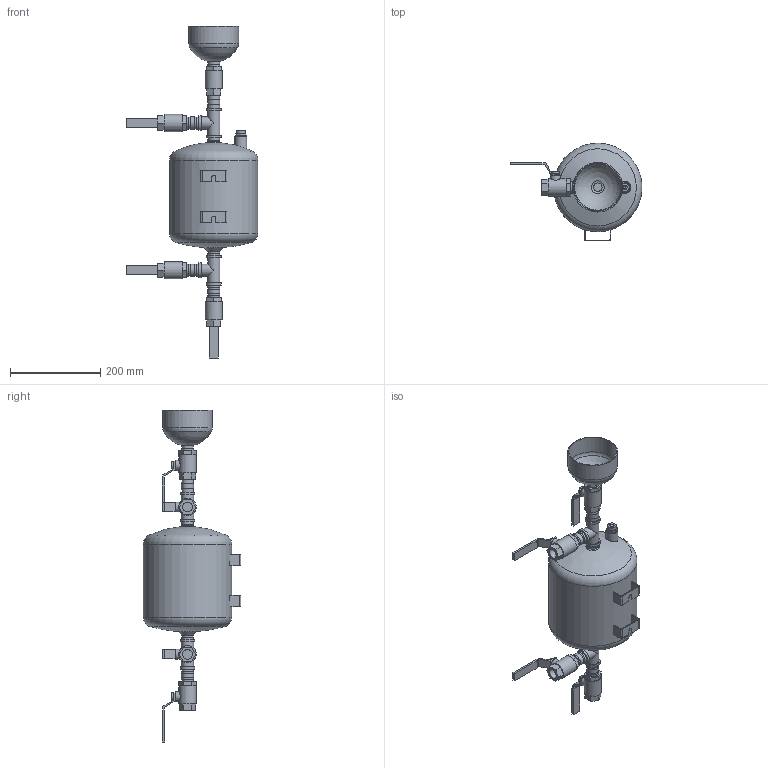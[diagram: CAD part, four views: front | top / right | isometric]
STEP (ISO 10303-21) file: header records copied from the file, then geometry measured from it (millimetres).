
FILE_DESCRIPTION(/* description */ (''),/* implementation_level */ '2;1');
FILE_NAME(/* name */ '\\DATASERVER\data\Flamco\3D-Modellen\Inventor\Dosing Pot\2021\2021 Dosing Pot 6 L\2021_Dosing Pot 6L.stp',/* time_stamp */ '2021-02-17T10:54:26+01:00',/* author */ ('kasius'),/* organization */ (''),/* preprocessor_version */ 'ST-DEVELOPER v17',/* originating_system */ 'Autodesk Inventor 2018',/* authorisation */ '');
FILE_SCHEMA (('AUTOMOTIVE_DESIGN { 1 0 10303 214 3 1 1 }'));
Length unit declared in the file: millimetre
Products named in the file (1): 2021_Dosing Pot 6L
Bounding box: 292.29 x 216 x 735.27 mm (x, y, z)
Volume: 6960980.4 mm3; surface area: 342030 mm2
Topology: 1 solids, 1 shells, 300 faces, 774 edges, 531 vertices
Faces by surface type: plane 215, cylinder 63, cone 13, torus 5, sphere 2, bspline 2
Full cylindrical faces by diameter (mm): 9.8 x1, 15.875 x8, 19 x1, 19.3 x1, 21.514 x4, 21.749 x2, 21.752 x1, 23.8 x1, 25.8 x1, 25.803 x2, 26 x1, 26.003 x2, 26.5 x1, 26.754 x4, 26.757 x2, 27 x3, 27.003 x1, 27.2 x2, 27.203 x2, 32.64 x2, 32.643 x4, 38.495 x3, 38.498 x1, 106 x1, 110 x1, 196.003 x1
Entity records: 9820 total; most frequent: CARTESIAN_POINT 2067, DIRECTION 1644, ORIENTED_EDGE 1548, EDGE_CURVE 774, AXIS2_PLACEMENT_3D 586, VERTEX_POINT 531, LINE 472, VECTOR 472
